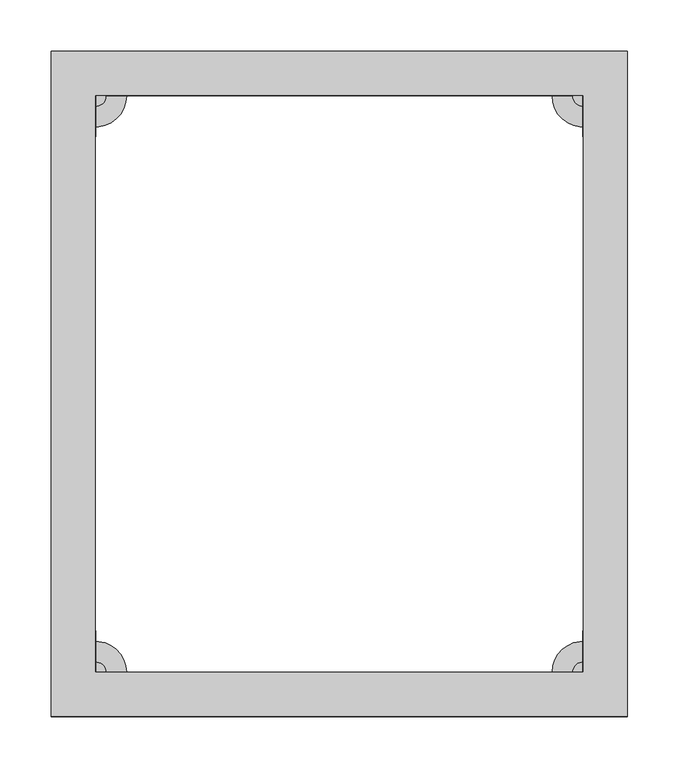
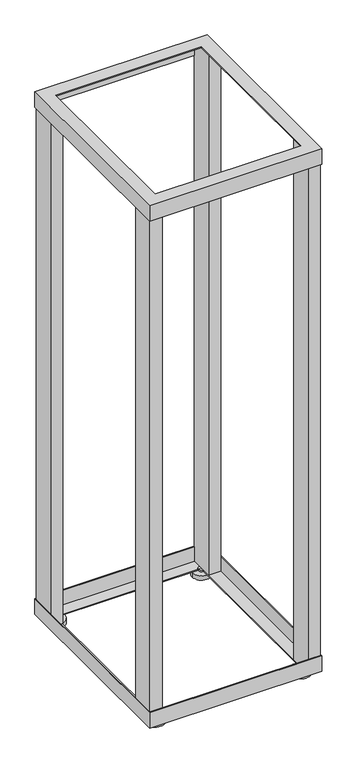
"""IFC4 building model written with IfcOpenShell, lengths in millimetres: proxy geometry, Шкафы ITK серия F : LF05-37U68-2R."""

import ifcopenshell
import ifcopenshell.guid

model = None  # the IFC model being written
_history = None  # IfcOwnerHistory: only IFC2X3 demands one
_inside = {}  # id of a spatial element -> (the spatial element, [elements in it])
_under = {}  # id of a project, library or spatial element -> (it, [spatial elements below it])
_declared = {}  # id of a project -> (the project, [libraries it declares])
_typed = {}  # id of a type object -> (the type object, [elements of that type])
_made_of = {}  # id of a material, layer set ... -> (it, [elements and type objects made of it])


def new_model(schema):
    """Start an empty IFC model of exactly this schema.

    Asked for "IFC4X3", IfcOpenShell would pick the latest addendum, in which some entities
    have other attributes; the version numbers below select the first issue.
    IFC2X3 requires an IfcOwnerHistory on every rooted entity: one is made here for all.
    """
    global model, _history
    if schema == "IFC4X3":
        model = ifcopenshell.file(schema_version=(4, 3, 0, 0))
    else:
        model = ifcopenshell.file(schema=schema)
    _inside.clear()
    _under.clear()
    _declared.clear()
    _typed.clear()
    _made_of.clear()
    _history = None
    if model.schema == "IFC2X3":
        org = make("IfcOrganization", Name="unknown")
        user = make(
            "IfcPersonAndOrganization",
            ThePerson=make("IfcPerson", FamilyName="unknown"),
            TheOrganization=org,
        )
        app = make(
            "IfcApplication",
            ApplicationDeveloper=org,
            Version="unknown",
            ApplicationFullName="unknown",
            ApplicationIdentifier="unknown",
        )
        _history = make(
            "IfcOwnerHistory",
            OwningUser=user,
            OwningApplication=app,
            ChangeAction="ADDED",
            CreationDate=0,
        )
    return model


def make(cls, **values):
    """One entity of the class cls with the attributes given. An attribute that is None is left unset."""
    return model.create_entity(
        cls, **{name: value for name, value in values.items() if value is not None}
    )


def rooted(cls, **values):
    """An entity with a GlobalId (a new one), such as an element, a storey or a relation."""
    return make(cls, GlobalId=ifcopenshell.guid.new(), OwnerHistory=_history, **values)


def si_unit(unit_type, name, prefix=None):
    """IfcSIUnit, for example si_unit("LENGTHUNIT", "METRE", prefix="MILLI")."""
    return make("IfcSIUnit", UnitType=unit_type, Prefix=prefix, Name=name)


def assignment(units):
    """IfcUnitAssignment: the units of a project."""
    return None if units is None else make("IfcUnitAssignment", Units=units)


def point(xyz):
    """IfcCartesianPoint."""
    return None if xyz is None else make("IfcCartesianPoint", Coordinates=xyz)


def direction(xyz):
    """IfcDirection."""
    return None if xyz is None else make("IfcDirection", DirectionRatios=xyz)


def frame(location, z_axis=None, x_axis=None):
    """IfcAxis2Placement3D, a coordinate frame: its origin and axes. An axis left out is left unset."""
    return make(
        "IfcAxis2Placement3D",
        Location=point(location),
        Axis=direction(z_axis),
        RefDirection=direction(x_axis),
    )


def frame_2d(location, x_axis=None):
    """IfcAxis2Placement2D, a coordinate frame in the plane: its origin and x axis."""
    return make(
        "IfcAxis2Placement2D", Location=point(location), RefDirection=direction(x_axis)
    )


def origin():
    """The frame at (0, 0, 0) with its axes left unset."""
    return frame((0.0, 0.0, 0.0))


def origin_with_axes():
    """The frame at (0, 0, 0) with the z axis (0, 0, 1) and the x axis (1, 0, 0) written out."""
    return frame((0.0, 0.0, 0.0), z_axis=(0.0, 0.0, 1.0), x_axis=(1.0, 0.0, 0.0))


def place(relative_to, where):
    """IfcLocalPlacement: puts the frame where relative to a parent placement (None: the world)."""
    return make(
        "IfcLocalPlacement", PlacementRelTo=relative_to, RelativePlacement=where
    )


def context(
    kind, dimensions, precision=None, world=None, true_north=None, identifier=None
):
    """IfcGeometricRepresentationContext, for example the 3D "Model" context."""
    return make(
        "IfcGeometricRepresentationContext",
        ContextIdentifier=identifier,
        ContextType=kind,
        CoordinateSpaceDimension=dimensions,
        Precision=precision,
        WorldCoordinateSystem=world,
        TrueNorth=true_north,
    )


def project(units=None, contexts=None):
    """IfcProject with its units and contexts."""
    return rooted(
        "IfcProject",
        Name="project",
        RepresentationContexts=contexts,
        UnitsInContext=assignment(units),
    )


def spatial(cls, under=None, at=None, **own):
    """A site, building, storey or space (cls), placed at a placement, below another one or the project."""
    s = rooted(cls, ObjectPlacement=at, **own)
    if under is not None:
        _under.setdefault(under.id(), (under, []))[1].append(s)
    return s


def polyline(points):
    """IfcPolyline through the points."""
    return make("IfcPolyline", Points=[point(p) for p in points])


def circle_curve(where, radius):
    """IfcCircle in the frame where."""
    return make("IfcCircle", Position=where, Radius=radius)


def trimmed(basis, trim1, trim2, sense, master):
    """IfcTrimmedCurve: the piece of a basis curve between two trims."""
    return make(
        "IfcTrimmedCurve",
        BasisCurve=basis,
        Trim1=trim1,
        Trim2=trim2,
        SenseAgreement=sense,
        MasterRepresentation=master,
    )


def segment(curve, same_sense, transition):
    """IfcCompositeCurveSegment."""
    return make(
        "IfcCompositeCurveSegment",
        Transition=transition,
        SameSense=same_sense,
        ParentCurve=curve,
    )


def composite_curve(segments, self_intersect=None):
    """IfcCompositeCurve: segments joined end to end."""
    return make("IfcCompositeCurve", Segments=segments, SelfIntersect=self_intersect)


def outline(outer, holes=None, kind="AREA"):
    """IfcArbitraryClosedProfileDef: a profile drawn as a closed curve; with holes, ...WithVoids."""
    if holes is None:
        return make("IfcArbitraryClosedProfileDef", ProfileType=kind, OuterCurve=outer)
    return make(
        "IfcArbitraryProfileDefWithVoids",
        ProfileType=kind,
        OuterCurve=outer,
        InnerCurves=holes,
    )


def extrude(swept, where, along, depth):
    """IfcExtrudedAreaSolid: the profile swept, set in the frame where, extruded along a direction by depth."""
    return make(
        "IfcExtrudedAreaSolid",
        SweptArea=swept,
        Position=where,
        ExtrudedDirection=direction(along),
        Depth=depth,
    )


def faces_of(points, faces, orient=None, outer=None):
    """IfcFace entities. A face is a list of loops; a loop is a list of indices into points, from 0.

    orient and outer hold one flag for each loop. By default every Orientation is true, the
    first loop of a face is its IfcFaceOuterBound and the others are IfcFaceBound.
    """
    made = []
    for i, loops in enumerate(faces):
        bounds = []
        for j, loop in enumerate(loops):
            is_outer = j == 0 if outer is None else outer[i][j]
            bounds.append(
                make(
                    "IfcFaceOuterBound" if is_outer else "IfcFaceBound",
                    Bound=make("IfcPolyLoop", Polygon=[points[k] for k in loop]),
                    Orientation=True if orient is None else orient[i][j],
                )
            )
        made.append(make("IfcFace", Bounds=bounds))
    return made


def faceted_brep(points, faces, orient=None, outer=None, voids=None):
    """IfcFacetedBrep: a solid bounded by flat faces; with voids (closed shells), ...WithVoids."""
    shared = [point(p) for p in points]
    hull = make("IfcClosedShell", CfsFaces=faces_of(shared, faces, orient, outer))
    if voids is None:
        return make("IfcFacetedBrep", Outer=hull)
    return make(
        "IfcFacetedBrepWithVoids",
        Outer=hull,
        Voids=[
            make(cls, CfsFaces=faces_of(shared, fs, o, b)) for cls, fs, o, b in voids
        ],
    )


def shape(context_of_items, identifier, shape_type, items):
    """IfcShapeRepresentation: the items that make up one representation, for example the "Body"."""
    return make(
        "IfcShapeRepresentation",
        ContextOfItems=context_of_items,
        RepresentationIdentifier=identifier,
        RepresentationType=shape_type,
        Items=items,
    )


def source(mapping_origin, context_of_items, identifier, shape_type, items):
    """IfcRepresentationMap: a shape defined once, which mapped items show again and again."""
    return make(
        "IfcRepresentationMap",
        MappingOrigin=mapping_origin,
        MappedRepresentation=shape(context_of_items, identifier, shape_type, items),
    )


def transform(
    local_origin,
    x_axis=None,
    y_axis=None,
    z_axis=None,
    scale=None,
    scale2=None,
    scale3=None,
    uniform=True,
):
    """IfcCartesianTransformationOperator3D, or its non-uniform kind. x_axis, y_axis, z_axis: its Axis1, 2, 3."""
    if uniform:
        return make(
            "IfcCartesianTransformationOperator3D",
            Axis1=direction(x_axis),
            Axis2=direction(y_axis),
            LocalOrigin=point(local_origin),
            Scale=scale,
            Axis3=direction(z_axis),
        )
    return make(
        "IfcCartesianTransformationOperator3DnonUniform",
        Axis1=direction(x_axis),
        Axis2=direction(y_axis),
        LocalOrigin=point(local_origin),
        Scale=scale,
        Axis3=direction(z_axis),
        Scale2=scale2,
        Scale3=scale3,
    )


def mapped(mapping_source, mapping_target):
    """IfcMappedItem: shows the shape of a source again, moved by a transform."""
    return make(
        "IfcMappedItem", MappingSource=mapping_source, MappingTarget=mapping_target
    )


def made_of(thing, what):
    """Note that an element or type object is made of a material, layer set ...; save() writes the relation."""
    if what is not None:
        _made_of.setdefault(what.id(), (what, []))[1].append(thing)
    return thing


def element(
    cls,
    number,
    at=None,
    inside=None,
    cuts=None,
    type_object=None,
    material=None,
    context=None,
    identifier="Body",
    shape_type=None,
    held_by="IfcProductDefinitionShape",
    body=None,
    shapes=None,
    **own,
):
    """One element of the class cls, such as IfcWall. Its Tag is "e" and its number.

    at: its placement. inside: the storey or other place that contains it. cuts: it is an
    opening in that element (IfcRelVoidsElement). A single representation is given by context,
    identifier, shape_type and body (its items); several are given by shapes. held_by: the class
    of the entity that holds the representations. save() writes the other relations.
    """
    e = rooted(cls, Tag="e%d" % number, ObjectPlacement=at, **own)
    if body is not None:
        shapes = [shape(context, identifier, shape_type, body)]
    if shapes is not None:
        e.Representation = make(held_by, Representations=shapes)
    if inside is not None:
        _inside.setdefault(inside.id(), (inside, []))[1].append(e)
    if cuts is not None:
        rooted(
            "IfcRelVoidsElement", RelatingBuildingElement=cuts, RelatedOpeningElement=e
        )
    if type_object is not None:
        _typed.setdefault(type_object.id(), (type_object, []))[1].append(e)
    return made_of(e, material)


def aggregate(whole, parts):
    """IfcRelAggregates: a whole, such as a stair, and the parts it consists of."""
    return rooted("IfcRelAggregates", RelatingObject=whole, RelatedObjects=parts)


def save(model, path):
    """Write the relations noted so far, then the file.

    IfcRelAggregates (storeys below a building ...), IfcRelContainedInSpatialStructure (elements
    in a storey), IfcRelDefinesByType, IfcRelAssociatesMaterial and IfcRelDeclares: one each for
    every whole, place, type object, material and project.
    """
    for whole, parts in _under.values():
        aggregate(whole, parts)
    for where, things in _inside.values():
        rooted(
            "IfcRelContainedInSpatialStructure",
            RelatedElements=things,
            RelatingStructure=where,
        )
    for kind, things in _typed.values():
        rooted("IfcRelDefinesByType", RelatedObjects=things, RelatingType=kind)
    for what, things in _made_of.values():
        rooted("IfcRelAssociatesMaterial", RelatedObjects=things, RelatingMaterial=what)
    for by, libraries in _declared.values():
        rooted("IfcRelDeclares", RelatingContext=by, RelatedDefinitions=libraries)
    model.write(path)


def electrical_fixtures_cc810546(model_context):
    return source(origin(), model_context, "Body", "SolidModel", [
        extrude(outline(composite_curve([segment(trimmed(circle_curve(frame_2d((-237.0, 280.0)), 10.0), [point((-227.0, 280.0))], [point((-247.0, 280.0))], False, "CARTESIAN"), True, "CONTINUOUS"), segment(trimmed(circle_curve(frame_2d((-237.0, 280.0)), 10.0), [point((-247.0, 280.0))], [point((-227.0, 280.0))], False, "CARTESIAN"), True, "CONTINUOUS")], self_intersect=False)), frame((0.0, 0.0, 15.0), z_axis=(0.0, 0.0, 1.0), x_axis=(1.0, 0.0, 0.0)), (0.0, 0.0, 1.0), 5.0),
        extrude(outline(composite_curve([segment(trimmed(circle_curve(frame_2d((237.0, 280.0)), 10.0), [point((247.0, 280.0))], [point((227.0, 280.0))], False, "CARTESIAN"), True, "CONTINUOUS"), segment(trimmed(circle_curve(frame_2d((237.0, 280.0)), 10.0), [point((227.0, 280.0))], [point((247.0, 280.0))], False, "CARTESIAN"), True, "CONTINUOUS")], self_intersect=False)), frame((0.0, 0.0, 15.0), z_axis=(0.0, 0.0, 1.0), x_axis=(1.0, 0.0, 0.0)), (0.0, 0.0, 1.0), 5.0),
        extrude(outline(composite_curve([segment(trimmed(circle_curve(frame_2d((-237.0, -280.0)), 10.0), [point((-227.0, -280.0))], [point((-247.0, -280.0))], False, "CARTESIAN"), True, "CONTINUOUS"), segment(trimmed(circle_curve(frame_2d((-237.0, -280.0)), 10.0), [point((-247.0, -280.0))], [point((-227.0, -280.0))], False, "CARTESIAN"), True, "CONTINUOUS")], self_intersect=False)), frame((0.0, 0.0, 15.0), z_axis=(0.0, 0.0, 1.0), x_axis=(1.0, 0.0, 0.0)), (0.0, 0.0, 1.0), 5.0),
        extrude(outline(composite_curve([segment(trimmed(circle_curve(frame_2d((237.0, -280.0)), 10.0), [point((247.0, -280.0))], [point((227.0, -280.0))], False, "CARTESIAN"), True, "CONTINUOUS"), segment(trimmed(circle_curve(frame_2d((237.0, -280.0)), 10.0), [point((227.0, -280.0))], [point((247.0, -280.0))], False, "CARTESIAN"), True, "CONTINUOUS")], self_intersect=False)), frame((0.0, 0.0, 15.0), z_axis=(0.0, 0.0, 1.0), x_axis=(1.0, 0.0, 0.0)), (0.0, 0.0, 1.0), 5.0),
        extrude(outline(composite_curve([segment(trimmed(circle_curve(frame_2d((-237.0, 280.0)), 30.0), [point((-207.0, 280.0))], [point((-267.0, 280.0))], False, "CARTESIAN"), True, "CONTINUOUS"), segment(trimmed(circle_curve(frame_2d((-237.0, 280.0)), 30.0), [point((-267.0, 280.0))], [point((-207.0, 280.0))], False, "CARTESIAN"), True, "CONTINUOUS")], self_intersect=False)), origin_with_axes(), (0.0, 0.0, 1.0), 15.0),
        extrude(outline(composite_curve([segment(trimmed(circle_curve(frame_2d((237.0, 280.0)), 30.0), [point((267.0, 280.0))], [point((207.0, 280.0))], False, "CARTESIAN"), True, "CONTINUOUS"), segment(trimmed(circle_curve(frame_2d((237.0, 280.0)), 30.0), [point((207.0, 280.0))], [point((267.0, 280.0))], False, "CARTESIAN"), True, "CONTINUOUS")], self_intersect=False)), origin_with_axes(), (0.0, 0.0, 1.0), 15.0),
        extrude(outline(composite_curve([segment(trimmed(circle_curve(frame_2d((-237.0, -280.0)), 30.0), [point((-207.0, -280.0))], [point((-267.0, -280.0))], False, "CARTESIAN"), True, "CONTINUOUS"), segment(trimmed(circle_curve(frame_2d((-237.0, -280.0)), 30.0), [point((-267.0, -280.0))], [point((-207.0, -280.0))], False, "CARTESIAN"), True, "CONTINUOUS")], self_intersect=False)), origin_with_axes(), (0.0, 0.0, 1.0), 15.0),
        extrude(outline(composite_curve([segment(trimmed(circle_curve(frame_2d((237.0, -280.0)), 30.0), [point((267.0, -280.0))], [point((207.0, -280.0))], False, "CARTESIAN"), True, "CONTINUOUS"), segment(trimmed(circle_curve(frame_2d((237.0, -280.0)), 30.0), [point((207.0, -280.0))], [point((267.0, -280.0))], False, "CARTESIAN"), True, "CONTINUOUS")], self_intersect=False)), origin_with_axes(), (0.0, 0.0, 1.0), 15.0),
        faceted_brep([(237.0, 280.0, 1813.0), (237.0, 280.0, 1810.0), (237.0, -280.0, 1810.0), (237.0, -280.0, 1813.0), (280.0, 323.0, 1760.0), (280.0, 323.0, 1813.0), (280.0, -323.0, 1813.0), (280.0, -323.0, 1760.0), (277.0, 320.0, 1810.0), (277.0, 320.0, 1760.0), (277.0, -320.0, 1760.0), (277.0, -320.0, 1810.0), (-237.0, -280.0, 1810.0), (-237.0, -280.0, 1813.0), (-280.0, -323.0, 1813.0), (-280.0, -323.0, 1760.0), (-277.0, -320.0, 1760.0), (-277.0, -320.0, 1810.0), (-237.0, 280.0, 1810.0), (-237.0, 280.0, 1813.0), (-280.0, 323.0, 1813.0), (-280.0, 323.0, 1760.0), (-277.0, 320.0, 1760.0), (-277.0, 320.0, 1810.0)], [[[0, 1, 2, 3]], [[4, 5, 6, 7]], [[8, 9, 10, 11]], [[3, 2, 12, 13]], [[7, 6, 14, 15]], [[11, 10, 16, 17]], [[13, 12, 18, 19]], [[15, 14, 20, 21]], [[17, 16, 22, 23]], [[19, 18, 1, 0]], [[5, 20, 14, 6], [3, 13, 19, 0]], [[21, 20, 5, 4]], [[7, 15, 21, 4], [9, 22, 16, 10]], [[23, 22, 9, 8]], [[11, 17, 23, 8], [1, 18, 12, 2]]]),
        faceted_brep([(280.0, 323.0, 17.0), (280.0, 323.0, 70.0), (280.0, -323.0, 70.0), (280.0, -323.0, 17.0), (237.0, 280.0, 20.0), (237.0, 280.0, 17.0), (237.0, -280.0, 17.0), (237.0, -280.0, 20.0), (277.0, 320.0, 70.0), (277.0, 320.0, 20.0), (277.0, -320.0, 20.0), (277.0, -320.0, 70.0), (-280.0, -323.0, 70.0), (-280.0, -323.0, 17.0), (-237.0, -280.0, 17.0), (-237.0, -280.0, 20.0), (-277.0, -320.0, 20.0), (-277.0, -320.0, 70.0), (-280.0, 323.0, 70.0), (-280.0, 323.0, 17.0), (-237.0, 280.0, 17.0), (-237.0, 280.0, 20.0), (-277.0, 320.0, 20.0), (-277.0, 320.0, 70.0)], [[[0, 1, 2, 3]], [[4, 5, 6, 7]], [[8, 9, 10, 11]], [[3, 2, 12, 13]], [[7, 6, 14, 15]], [[11, 10, 16, 17]], [[13, 12, 18, 19]], [[15, 14, 20, 21]], [[17, 16, 22, 23]], [[1, 18, 12, 2], [11, 17, 23, 8]], [[19, 18, 1, 0]], [[3, 13, 19, 0], [5, 20, 14, 6]], [[21, 20, 5, 4]], [[9, 22, 16, 10], [7, 15, 21, 4]], [[23, 22, 9, 8]]]),
        extrude(outline(polyline([(-237.0, -240.0), (-237.0, -320.0), (-277.0, -320.0), (-277.0, -240.0), (-237.0, -240.0)]), holes=[polyline([(-240.0, -243.0), (-274.0, -243.0), (-274.0, -317.0), (-240.0, -317.0), (-240.0, -243.0)])]), frame((0.0, 0.0, 20.0), z_axis=(0.0, 0.0, 1.0), x_axis=(1.0, 0.0, 0.0)), (0.0, 0.0, 1.0), 1790.0),
        extrude(outline(polyline([(237.0, 240.0), (237.0, 320.0), (277.0, 320.0), (277.0, 240.0), (237.0, 240.0)]), holes=[polyline([(274.0, 243.0), (274.0, 317.0), (240.0, 317.0), (240.0, 243.0), (274.0, 243.0)])]), frame((0.0, 0.0, 20.0), z_axis=(0.0, 0.0, 1.0), x_axis=(1.0, 0.0, 0.0)), (0.0, 0.0, 1.0), 1790.0),
        extrude(outline(polyline([(-237.0, 240.0), (-277.0, 240.0), (-277.0, 320.0), (-237.0, 320.0), (-237.0, 240.0)]), holes=[polyline([(-274.0, 317.0), (-274.0, 243.0), (-240.0, 243.0), (-240.0, 317.0), (-274.0, 317.0)])]), frame((0.0, 0.0, 20.0), z_axis=(0.0, 0.0, 1.0), x_axis=(1.0, 0.0, 0.0)), (0.0, 0.0, 1.0), 1790.0),
        extrude(outline(polyline([(237.0, -240.0), (277.0, -240.0), (277.0, -320.0), (237.0, -320.0), (237.0, -240.0)]), holes=[polyline([(274.0, -317.0), (274.0, -243.0), (240.0, -243.0), (240.0, -317.0), (274.0, -317.0)])]), frame((0.0, 0.0, 20.0), z_axis=(0.0, 0.0, 1.0), x_axis=(1.0, 0.0, 0.0)), (0.0, 0.0, 1.0), 1790.0),
    ])


if __name__ == "__main__":
    model = new_model("IFC4")
    model_context = context("Model", 3, world=origin())
    ifc_project = project(units=[si_unit("LENGTHUNIT", "METRE", prefix="MILLI")], contexts=[model_context])
    site = spatial("IfcSite", under=ifc_project)
    building = spatial("IfcBuilding", under=site)
    placement = place(None, origin())
    electrical_fixtures_shape = electrical_fixtures_cc810546(model_context)
    element("IfcBuildingElementProxy", 1, Name="Шкафы ITK серия F : LF05-37U68-2R", ObjectType="Шкафы ITK серия F : LF05-37U68-2R", at=placement, inside=building, context=model_context, shape_type="MappedRepresentation", body=[
        mapped(electrical_fixtures_shape, transform((0.0, 0.0, 0.0), x_axis=(1.0, 0.0, 0.0), y_axis=(0.0, 1.0, 0.0), z_axis=(0.0, 0.0, 1.0))),
    ])
    save(model, "model.ifc")
